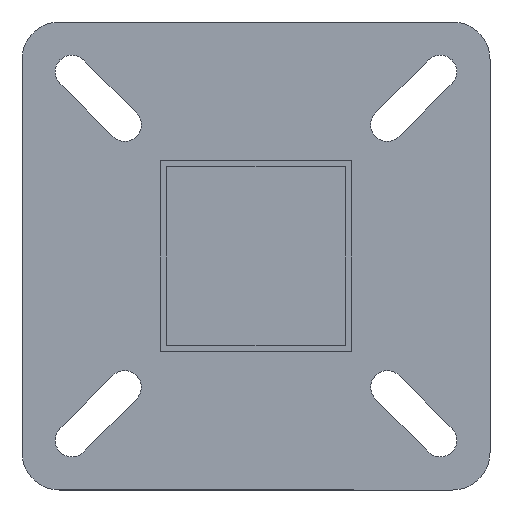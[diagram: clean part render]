
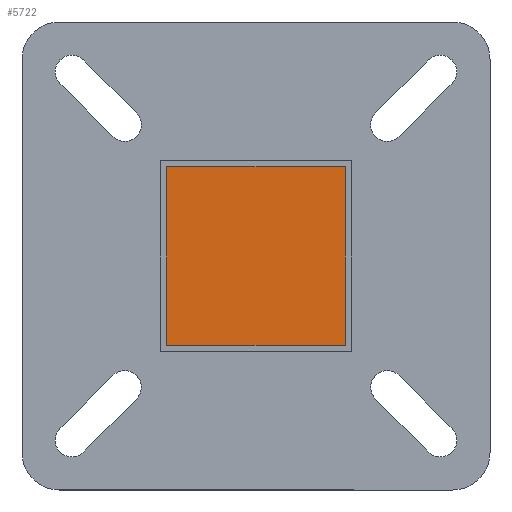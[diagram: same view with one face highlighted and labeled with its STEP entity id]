
A CAD part, front view. The second image highlights one B-rep face of the part: STEP entity #5722.
In plain terms, the highlighted planar face has unit normal (0, -1, 0).
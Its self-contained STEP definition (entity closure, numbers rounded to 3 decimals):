
#330 = ORIENTED_EDGE ( 'NONE', *, *, #5504, .T. ) ;
#386 = LINE ( 'NONE', #3623, #1644 ) ;
#581 = CARTESIAN_POINT ( 'NONE',  ( 49.212, 1365.2, 49.212 ) ) ;
#714 = LINE ( 'NONE', #5601, #5907 ) ;
#852 = VERTEX_POINT ( 'NONE', #3001 ) ;
#945 = VERTEX_POINT ( 'NONE', #6126 ) ;
#1644 = VECTOR ( 'NONE', #7891, 1000. ) ;
#1836 = LINE ( 'NONE', #581, #6776 ) ;
#2439 = ORIENTED_EDGE ( 'NONE', *, *, #6639, .T. ) ;
#2530 = DIRECTION ( 'NONE',  ( 0., 0., -1. ) ) ;
#2628 = VERTEX_POINT ( 'NONE', #6168 ) ;
#2743 = AXIS2_PLACEMENT_3D ( 'NONE', #7512, #8146, #5043 ) ;
#2981 = CARTESIAN_POINT ( 'NONE',  ( -49.213, 1365.2, 49.212 ) ) ;
#3001 = CARTESIAN_POINT ( 'NONE',  ( 49.212, 1365.2, 49.212 ) ) ;
#3140 = EDGE_LOOP ( 'NONE', ( #2439, #330, #4671, #7016 ) ) ;
#3623 = CARTESIAN_POINT ( 'NONE',  ( -49.213, 1365.2, 49.212 ) ) ;
#3805 = EDGE_CURVE ( 'NONE', #2628, #852, #1836, .T. ) ;
#3890 = EDGE_CURVE ( 'NONE', #852, #945, #386, .T. ) ;
#4338 = PLANE ( 'NONE',  #2743 ) ;
#4381 = DIRECTION ( 'NONE',  ( 1., 0., 0. ) ) ;
#4480 = DIRECTION ( 'NONE',  ( 0., 0., 1. ) ) ;
#4671 = ORIENTED_EDGE ( 'NONE', *, *, #3805, .T. ) ;
#4927 = FACE_OUTER_BOUND ( 'NONE', #3140, .T. ) ;
#5043 = DIRECTION ( 'NONE',  ( 0., 0., -1. ) ) ;
#5504 = EDGE_CURVE ( 'NONE', #7139, #2628, #714, .T. ) ;
#5535 = LINE ( 'NONE', #2981, #5735 ) ;
#5601 = CARTESIAN_POINT ( 'NONE',  ( -49.213, 1365.2, -49.212 ) ) ;
#5722 = ADVANCED_FACE ( 'N', ( #4927 ), #4338, .T. ) ;
#5735 = VECTOR ( 'NONE', #2530, 1000. ) ;
#5907 = VECTOR ( 'NONE', #4381, 1000. ) ;
#5930 = CARTESIAN_POINT ( 'NONE',  ( -49.213, 1365.2, -49.212 ) ) ;
#6126 = CARTESIAN_POINT ( 'NONE',  ( -49.213, 1365.2, 49.212 ) ) ;
#6168 = CARTESIAN_POINT ( 'NONE',  ( 49.212, 1365.2, -49.212 ) ) ;
#6639 = EDGE_CURVE ( 'NONE', #945, #7139, #5535, .T. ) ;
#6776 = VECTOR ( 'NONE', #4480, 1000. ) ;
#7016 = ORIENTED_EDGE ( 'NONE', *, *, #3890, .T. ) ;
#7139 = VERTEX_POINT ( 'NONE', #5930 ) ;
#7512 = CARTESIAN_POINT ( 'NONE',  ( 0., 1365.2, 0. ) ) ;
#7891 = DIRECTION ( 'NONE',  ( -1., 0., 0. ) ) ;
#8146 = DIRECTION ( 'NONE',  ( 0., -1., 0. ) ) ;
